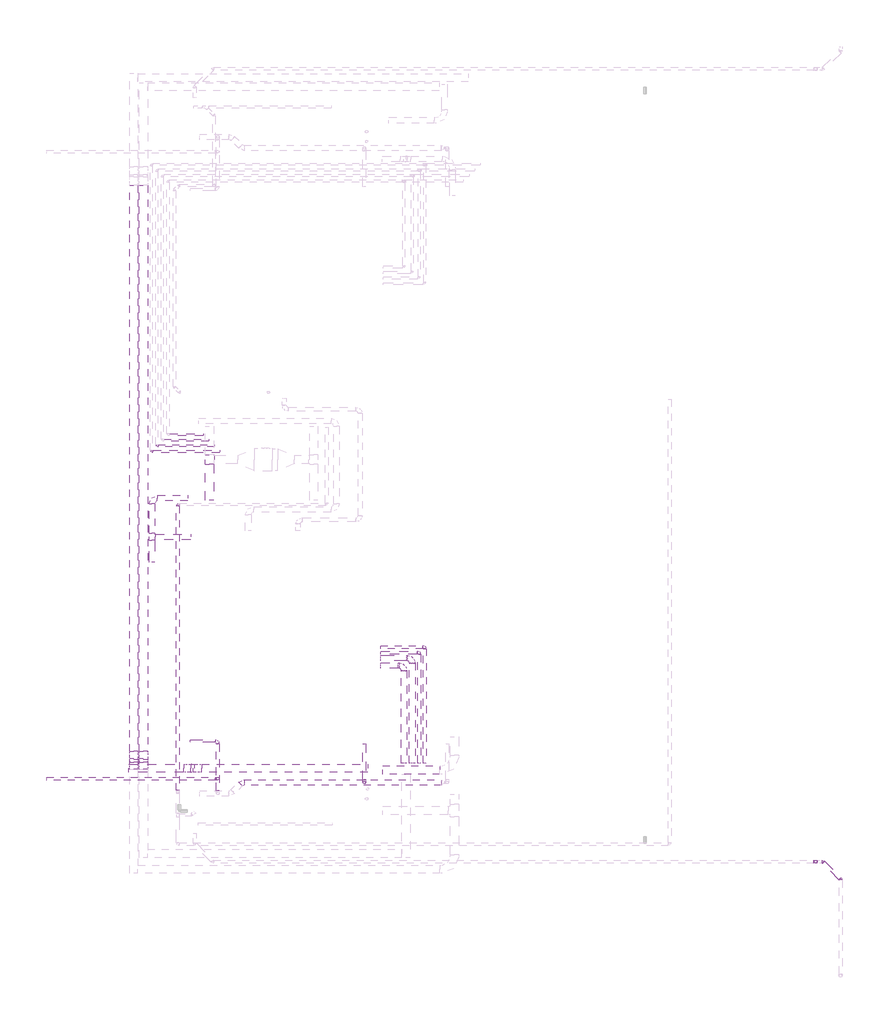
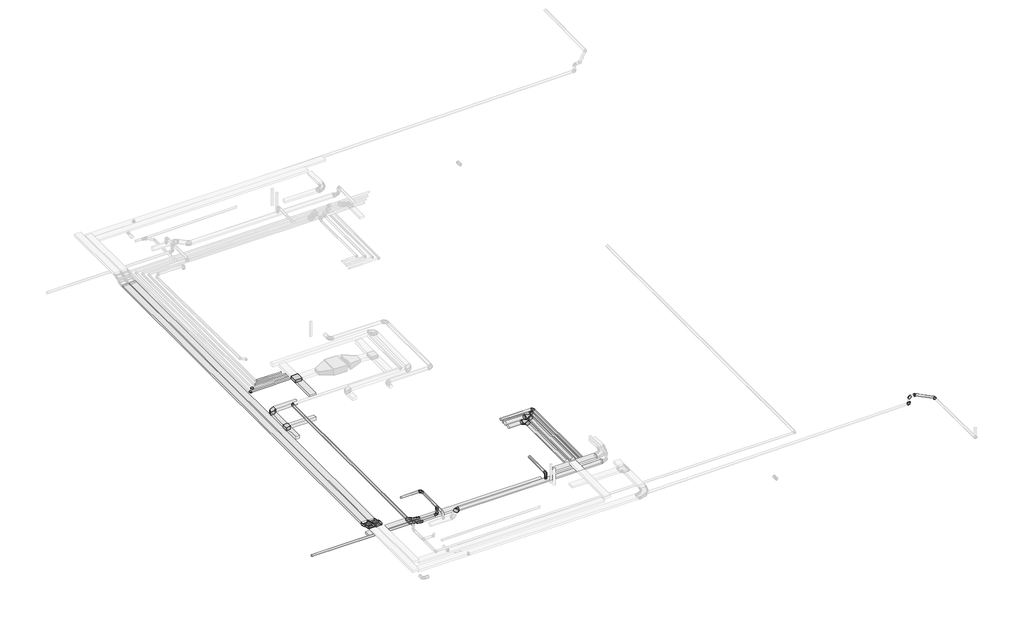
# One storey, part 2 of 5: 14 pipe segments, 12 duct segments, 11 pipe fittings, 9 duct fittings, 8 cable carrier segments, 6 cable carrier fittings.
"""IFC4 building model written with IfcOpenShell, lengths in millimetres."""

from ifc_helpers import new_model, si_unit, point, frame, frame_2d, origin, place, context, project, spatial, polyline, circle_curve, trimmed, segment, composite_curve, outline, extrude, transform, mapped, element, save
from components import m_codo_vertical_exterior_de_canal_el_547dc688, m_codo_vertical_interior_de_canal_el_a775c4ca, apt_33348139, ext_8b80eda7, ext_110b8343, ext_95de42ea, m_codo_rectangular_radio_apt_1_w_a605e9b7, m_codo_redondo_ext_1_d_96ea52f9, m_codo_redondo_ext_1_d_19f6bd6d, pipe_fitting_0b7fd5a4, pipe_fitting_aab77541, pipe_fitting_0af9fee6, pipe_fitting_39727cd3, pipe_fitting_3b77712d, pipe_fitting_2358b14d, pipe_fitting_3a68447e, pipe_fitting_87aeffad

model = new_model("IFC4")

# Units and contexts
model_context = context("Model", 3, world=origin())
ifc_project = project(units=[si_unit("LENGTHUNIT", "METRE", prefix="MILLI")], contexts=[model_context])

# Site, building, storey
site = spatial("IfcSite", under=ifc_project)
building = spatial("IfcBuilding", under=site)
storey = spatial("IfcBuildingStorey", under=building, Name="Nivell 02 P02_PP", Elevation=14910.0)

# Cable carrier fittings
placement = place(None, origin())
m_codo_vertical_exterior_de_canal_el_shape = m_codo_vertical_exterior_de_canal_el_547dc688(model_context)
element("IfcCableCarrierFitting", 1, ObjectType="M_Codo vertical exterior de canal : EL", at=placement, inside=storey, context=model_context, shape_type="MappedRepresentation", body=[
    mapped(m_codo_vertical_exterior_de_canal_el_shape, transform((5357.0671065, -15355.3999814, 18160.0), x_axis=(0.0, 1.0, 0.0), y_axis=(0.0, 0.0, -1.0), z_axis=(-1.0, 0.0, 0.0))),
])
element("IfcCableCarrierFitting", 2, ObjectType="M_Codo vertical exterior de canal : EL", at=placement, inside=storey, context=model_context, shape_type="MappedRepresentation", body=[
    mapped(m_codo_vertical_exterior_de_canal_el_shape, transform((5008.2381883, -15355.3999814, 18160.0), x_axis=(0.0, -0.9238795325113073, 0.38268343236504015), y_axis=(0.0, -0.38268343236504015, -0.9238795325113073), z_axis=(1.0, 0.0, 0.0))),
])
element("IfcCableCarrierFitting", 3, ObjectType="M_Codo vertical exterior de canal : EL", at=placement, inside=storey, context=model_context, shape_type="MappedRepresentation", body=[
    mapped(m_codo_vertical_exterior_de_canal_el_shape, transform((6956.7785309, -15459.2996833, 17810.0), x_axis=(1.0, 0.0, 0.0), y_axis=(0.0, 0.0, -1.0), z_axis=(0.0, 1.0, 0.0))),
])
m_codo_vertical_interior_de_canal_el_shape = m_codo_vertical_interior_de_canal_el_a775c4ca(model_context)
element("IfcCableCarrierFitting", 4, ObjectType="M_Codo vertical interior de canal : EL", at=placement, inside=storey, context=model_context, shape_type="MappedRepresentation", body=[
    mapped(m_codo_vertical_interior_de_canal_el_shape, transform((5357.0671065, -14993.267947, 18010.0), x_axis=(0.0, 0.9238795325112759, -0.38268343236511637), y_axis=(0.0, 0.38268343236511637, 0.9238795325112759), z_axis=(1.0, 0.0, 0.0))),
])
element("IfcCableCarrierFitting", 5, ObjectType="M_Codo vertical interior de canal : EL", at=placement, inside=storey, context=model_context, shape_type="MappedRepresentation", body=[
    mapped(m_codo_vertical_interior_de_canal_el_shape, transform((5008.2381883, -14993.267947, 18010.0), x_axis=(0.0, -1.0, 0.0), y_axis=(0.0, 0.0, 1.0), z_axis=(-1.0, 0.0, 0.0))),
])
element("IfcCableCarrierFitting", 6, ObjectType="M_Codo vertical interior de canal : EL", at=placement, inside=storey, context=model_context, shape_type="MappedRepresentation", body=[
    mapped(m_codo_vertical_interior_de_canal_el_shape, transform((7318.9105653, -15459.2996833, 17660.0), x_axis=(0.9238795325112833, 0.0, -0.38268343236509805), y_axis=(0.38268343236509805, 0.0, 0.9238795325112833), z_axis=(0.0, -1.0, 0.0))),
])

# Cable carrier segments
element("IfcCableCarrierSegment", 7, ObjectType="EL", at=placement, inside=storey, context=model_context, shape_type="SweptSolid", body=[
    extrude(outline(polyline([(6812.1592023, -15309.2996833), (6812.1592023, -15609.2996833), (4831.7785309, -15609.2996833), (4831.7785309, -15309.2996833), (6812.1592023, -15309.2996833)])), frame((0.0, 0.0, 17760.0), z_axis=(0.0, 0.0, 1.0), x_axis=(1.0, 0.0, 0.0)), (0.0, 0.0, 1.0), 100.0),
])
element("IfcCableCarrierSegment", 8, ObjectType="EL", at=placement, inside=storey, context=model_context, shape_type="SweptSolid", body=[
    extrude(outline(polyline([(16089.6624278, -15371.1304394), (16089.6624278, -15671.1304394), (14011.0671065, -15671.1304394), (14011.0671065, -15371.1304394), (16089.6624278, -15371.1304394)])), frame((0.0, 0.0, 17960.0), z_axis=(0.0, 0.0, 1.0), x_axis=(1.0, 0.0, 0.0)), (0.0, 0.0, 1.0), 100.0),
])
element("IfcCableCarrierSegment", 9, ObjectType="EL", at=placement, inside=storey, context=model_context, shape_type="SweptSolid", body=[
    extrude(outline(polyline([(0.0, -300.0), (0.0, 0.0), (102.7302323, 0.0), (102.7302323, -300.0), (0.0, -300.0)])), frame((5207.0671065, -15240.9233153, 18058.4626023), z_axis=(0.0, 0.38268343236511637, 0.9238795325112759), x_axis=(0.0, 0.9238795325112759, -0.38268343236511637)), (0.0, 0.0, 1.0), 100.0),
])
element("IfcCableCarrierSegment", 10, ObjectType="EL", at=placement, inside=storey, context=model_context, shape_type="SweptSolid", body=[
    extrude(outline(polyline([(5507.0671065, -14848.6486184), (5207.0671065, -14848.6486184), (5207.0671065, 5634.423571), (5507.0671065, 5634.423571), (5507.0671065, -14848.6486184)])), frame((0.0, 0.0, 17960.0), z_axis=(0.0, 0.0, 1.0), x_axis=(1.0, 0.0, 0.0)), (0.0, 0.0, 1.0), 100.0),
])
element("IfcCableCarrierSegment", 11, ObjectType="EL", at=placement, inside=storey, context=model_context, shape_type="SweptSolid", body=[
    extrude(outline(polyline([(4858.2381883, 5634.423571), (5158.2381883, 5634.423571), (5158.2381883, -14848.6486184), (4858.2381883, -14848.6486184), (4858.2381883, 5634.423571)])), frame((0.0, 0.0, 17960.0), z_axis=(0.0, 0.0, 1.0), x_axis=(1.0, 0.0, 0.0)), (0.0, 0.0, 1.0), 100.0),
])
element("IfcCableCarrierSegment", 12, ObjectType="EL", at=placement, inside=storey, context=model_context, shape_type="SweptSolid", body=[
    extrude(outline(polyline([(0.0, -300.0), (0.0, 0.0), (102.7302323, 0.0), (102.7302323, -300.0), (0.0, -300.0)])), frame((5158.2381883, -15146.0129563, 18019.1494444), z_axis=(0.0, 0.3826834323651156, 0.9238795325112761), x_axis=(0.0, -0.9238795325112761, 0.3826834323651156)), (0.0, 0.0, 1.0), 100.0),
])
element("IfcCableCarrierSegment", 13, ObjectType="EL", at=placement, inside=storey, context=model_context, shape_type="SweptSolid", body=[
    extrude(outline(polyline([(7463.5298938, -15609.2996833), (7463.5298938, -15309.2996833), (13469.9876148, -15309.2996833), (13469.9876148, -15609.2996833), (7463.5298938, -15609.2996833)])), frame((0.0, 0.0, 17610.0), z_axis=(0.0, 0.0, 1.0), x_axis=(1.0, 0.0, 0.0)), (0.0, 0.0, 1.0), 100.0),
])
element("IfcCableCarrierSegment", 14, ObjectType="EL", at=placement, inside=storey, context=model_context, shape_type="SweptSolid", body=[
    extrude(outline(polyline([(0.0, -300.0), (0.0, 0.0), (102.7302323, 0.0), (102.7302323, -300.0), (0.0, -300.0)])), frame((7071.255197, -15309.2996833, 17708.4626023), z_axis=(0.38268343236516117, 0.0, 0.9238795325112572), x_axis=(0.9238795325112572, 0.0, -0.38268343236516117)), (0.0, 0.0, 1.0), 100.0),
])

# Duct fittings
apt_shape = apt_33348139(model_context)
element("IfcDuctFitting", 15, ObjectType="M_Te rectangular : APT", at=placement, inside=storey, context=model_context, shape_type="MappedRepresentation", body=[
    mapped(apt_shape, transform((5665.7790997, -7084.7059364, 18060.0), x_axis=(0.0, 1.0, 0.0), y_axis=(-1.0, 0.0, 0.0), z_axis=(0.0, 0.0, 1.0))),
])
ext_shape = ext_8b80eda7(model_context)
element("IfcDuctFitting", 16, ObjectType="M_Toma de derivación redonda : EXT", at=placement, inside=storey, context=model_context, shape_type="MappedRepresentation", body=[
    mapped(ext_shape, transform((13350.5896993, -15972.9719502, 18090.0), x_axis=(0.0, 0.0, 1.0), y_axis=(-1.0, 0.0, 0.0), z_axis=(0.0, -1.0, 0.0))),
])
ext_2_shape = ext_110b8343(model_context)
element("IfcDuctFitting", 17, ObjectType="M_Toma de derivación redonda : EXT", at=placement, inside=storey, context=model_context, shape_type="MappedRepresentation", body=[
    mapped(ext_2_shape, transform((8050.5896993, -15837.2857017, 18310.0), x_axis=(0.0, 0.0, -1.0), y_axis=(0.0, -1.0, 0.0), z_axis=(-1.0, 0.0, 0.0))),
])
ext_3_shape = ext_95de42ea(model_context)
element("IfcDuctFitting", 18, ObjectType="M_Te rectangular : EXT", at=placement, inside=storey, context=model_context, shape_type="MappedRepresentation", body=[
    mapped(ext_3_shape, transform((7746.1618177, -4289.990201, 18177.1198525), x_axis=(0.0, 1.0, 0.0), y_axis=(-1.0, 0.0, 0.0), z_axis=(0.0, 0.0, 1.0))),
])
m_codo_rectangular_radio_apt_1_w_shape = m_codo_rectangular_radio_apt_1_w_a605e9b7(model_context)
element("IfcDuctFitting", 19, ObjectType="M_Codo rectangular - Radio : APT_1 W", at=placement, inside=storey, context=model_context, shape_type="MappedRepresentation", body=[
    mapped(m_codo_rectangular_radio_apt_1_w_shape, transform((5665.7790997, -5684.7059364, 18060.0), x_axis=(-1.0, 0.0, 0.0), y_axis=(0.0, -1.0, 0.0), z_axis=(0.0, 0.0, 1.0))),
])
m_codo_redondo_ext_1_d_shape = m_codo_redondo_ext_1_d_96ea52f9(model_context)
element("IfcDuctFitting", 20, ObjectType="M_Codo redondo : EXT_1 D", at=placement, inside=storey, context=model_context, shape_type="MappedRepresentation", body=[
    mapped(m_codo_redondo_ext_1_d_shape, transform((8050.5896993, -14471.4839002, 18360.0), x_axis=(1.0, 0.0, 0.0), y_axis=(0.0, 1.0, 0.0), z_axis=(0.0, 0.0, 1.0))),
])
element("IfcDuctFitting", 21, ObjectType="M_Codo redondo : EXT_1 D", at=placement, inside=storey, context=model_context, shape_type="MappedRepresentation", body=[
    mapped(m_codo_redondo_ext_1_d_shape, transform((13350.5896993, -15972.9719502, 18360.0), x_axis=(0.0, -1.0, 0.0), y_axis=(0.0, 0.0, 1.0), z_axis=(-1.0, 0.0, 0.0))),
])
element("IfcDuctFitting", 22, ObjectType="M_Codo redondo : EXT_1 D", at=placement, inside=storey, context=model_context, shape_type="MappedRepresentation", body=[
    mapped(m_codo_redondo_ext_1_d_shape, transform((8050.5896993, -15837.2857017, 17960.0), x_axis=(0.0, 0.0, -1.0), y_axis=(1.0, 0.0, 0.0), z_axis=(0.0, -1.0, 0.0))),
])
m_codo_redondo_ext_1_d_2_shape = m_codo_redondo_ext_1_d_19f6bd6d(model_context)
element("IfcDuctFitting", 23, ObjectType="M_Codo redondo : EXT_1 D", at=placement, inside=storey, context=model_context, shape_type="MappedRepresentation", body=[
    mapped(m_codo_redondo_ext_1_d_2_shape, transform((8930.5896993, -15972.9719502, 17990.0), x_axis=(0.7071067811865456, 0.7071067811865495, 0.0), y_axis=(-0.7071067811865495, 0.7071067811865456, 0.0), z_axis=(0.0, 0.0, 1.0))),
])

# Duct segments
element("IfcDuctSegment", 24, ObjectType="APT_Fibra de vidre rígida", at=placement, inside=storey, context=model_context, shape_type="SweptSolid", body=[
    extrude(outline(polyline([(7065.7790997, -6984.7059364), (7065.7790997, -7184.7059364), (5790.7790997, -7184.7059364), (5790.7790997, -6984.7059364), (7065.7790997, -6984.7059364)])), frame((0.0, 0.0, 17985.0), z_axis=(0.0, 0.0, 1.0), x_axis=(1.0, 0.0, 0.0)), (0.0, 0.0, 1.0), 150.0),
])
element("IfcDuctSegment", 25, ObjectType="APT_Fibra de vidre rígida", at=placement, inside=storey, context=model_context, shape_type="SweptSolid", body=[
    extrude(outline(polyline([(5765.7790997, -6959.7059364), (5565.7790997, -6959.7059364), (5565.7790997, -5884.7059364), (5765.7790997, -5884.7059364), (5765.7790997, -6959.7059364)])), frame((0.0, 0.0, 17985.0), z_axis=(0.0, 0.0, 1.0), x_axis=(1.0, 0.0, 0.0)), (0.0, 0.0, 1.0), 150.0),
])
element("IfcDuctSegment", 26, ObjectType="APT_Fibra de vidre rígida", at=placement, inside=storey, context=model_context, shape_type="SweptSolid", body=[
    extrude(outline(polyline([(5865.7790997, -5784.7059364), (5865.7790997, -5584.7059364), (6965.7790997, -5584.7059364), (6965.7790997, -5784.7059364), (5865.7790997, -5784.7059364)])), frame((0.0, 0.0, 17985.0), z_axis=(0.0, 0.0, 1.0), x_axis=(1.0, 0.0, 0.0)), (0.0, 0.0, 1.0), 150.0),
])
element("IfcDuctSegment", 27, ObjectType="APT_Fibra de vidre rígida", at=placement, inside=storey, context=model_context, shape_type="SweptSolid", body=[
    extrude(outline(polyline([(5565.7790997, -7209.7059364), (5765.7790997, -7209.7059364), (5765.7790997, -8009.7059364), (5565.7790997, -8009.7059364), (5565.7790997, -7209.7059364)])), frame((0.0, 0.0, 17985.0), z_axis=(0.0, 0.0, 1.0), x_axis=(1.0, 0.0, 0.0)), (0.0, 0.0, 1.0), 150.0),
])
element("IfcDuctSegment", 28, ObjectType="EXT_Acer Galvanitzat - Rígid", at=placement, inside=storey, context=model_context, shape_type="SweptSolid", body=[
    extrude(outline(composite_curve([segment(trimmed(circle_curve(frame_2d((-15972.9719502, 17990.0)), 100.0), [point((-15872.9719502, 17990.0))], [point((-15972.9719502, 17890.0))], False, "CARTESIAN"), True, "CONTINUOUS"), segment(trimmed(circle_curve(frame_2d((-15972.9719502, 17990.0)), 100.0), [point((-15972.9719502, 17890.0))], [point((-16072.9719502, 17990.0))], False, "CARTESIAN"), True, "CONTINUOUS"), segment(trimmed(circle_curve(frame_2d((-15972.9719502, 17990.0)), 100.0), [point((-16072.9719502, 17990.0))], [point((-15972.9719502, 18090.0))], False, "CARTESIAN"), True, "CONTINUOUS"), segment(trimmed(circle_curve(frame_2d((-15972.9719502, 17990.0)), 100.0), [point((-15972.9719502, 18090.0))], [point((-15872.9719502, 17990.0))], False, "CARTESIAN"), True, "CONTINUOUS")], self_intersect=False)), frame((9013.4324117, 0.0, 0.0), z_axis=(1.0, 0.0, 0.0), x_axis=(0.0, 1.0, 0.0)), (0.0, 0.0, 1.0), 7116.4466094),
])
element("IfcDuctSegment", 29, ObjectType="EXT_Acer Galvanitzat - Rígid", at=placement, inside=storey, context=model_context, shape_type="SweptSolid", body=[
    extrude(outline(composite_curve([segment(trimmed(circle_curve(frame_2d((-14471.4839002, 18360.0)), 50.0), [point((-14521.4839002, 18360.0))], [point((-14471.4839002, 18410.0))], False, "CARTESIAN"), True, "CONTINUOUS"), segment(trimmed(circle_curve(frame_2d((-14471.4839002, 18360.0)), 50.0), [point((-14471.4839002, 18410.0))], [point((-14421.4839002, 18360.0))], False, "CARTESIAN"), True, "CONTINUOUS"), segment(trimmed(circle_curve(frame_2d((-14471.4839002, 18360.0)), 50.0), [point((-14421.4839002, 18360.0))], [point((-14471.4839002, 18310.0))], False, "CARTESIAN"), True, "CONTINUOUS"), segment(trimmed(circle_curve(frame_2d((-14471.4839002, 18360.0)), 50.0), [point((-14471.4839002, 18310.0))], [point((-14521.4839002, 18360.0))], False, "CARTESIAN"), True, "CONTINUOUS")], self_intersect=False)), frame((7050.5896993, 0.0, 0.0), z_axis=(1.0, 0.0, 0.0), x_axis=(0.0, 1.0, 0.0)), (0.0, 0.0, 1.0), 900.0),
])
element("IfcDuctSegment", 30, ObjectType="EXT_Acer Galvanitzat - Rígid", at=placement, inside=storey, context=model_context, shape_type="SweptSolid", body=[
    extrude(outline(composite_curve([segment(trimmed(circle_curve(frame_2d((18360.0, 8050.5896993)), 50.0), [point((18360.0, 8100.5896993))], [point((18410.0, 8050.5896993))], False, "CARTESIAN"), True, "CONTINUOUS"), segment(trimmed(circle_curve(frame_2d((18360.0, 8050.5896993)), 50.0), [point((18410.0, 8050.5896993))], [point((18360.0, 8000.5896993))], False, "CARTESIAN"), True, "CONTINUOUS"), segment(trimmed(circle_curve(frame_2d((18360.0, 8050.5896993)), 50.0), [point((18360.0, 8000.5896993))], [point((18310.0, 8050.5896993))], False, "CARTESIAN"), True, "CONTINUOUS"), segment(trimmed(circle_curve(frame_2d((18360.0, 8050.5896993)), 50.0), [point((18310.0, 8050.5896993))], [point((18360.0, 8100.5896993))], False, "CARTESIAN"), True, "CONTINUOUS")], self_intersect=False)), frame((0.0, -16272.9719502, 0.0), z_axis=(0.0, 1.0, 0.0), x_axis=(0.0, 0.0, 1.0)), (0.0, 0.0, 1.0), 1701.48805),
])
element("IfcDuctSegment", 31, ObjectType="EXT_Acer Galvanitzat - Rígid", at=placement, inside=storey, context=model_context, shape_type="SweptSolid", body=[
    extrude(outline(composite_curve([segment(trimmed(circle_curve(frame_2d((18360.0, 13350.5896993)), 50.0), [point((18360.0, 13400.5896993))], [point((18410.0, 13350.5896993))], False, "CARTESIAN"), True, "CONTINUOUS"), segment(trimmed(circle_curve(frame_2d((18360.0, 13350.5896993)), 50.0), [point((18410.0, 13350.5896993))], [point((18360.0, 13300.5896993))], False, "CARTESIAN"), True, "CONTINUOUS"), segment(trimmed(circle_curve(frame_2d((18360.0, 13350.5896993)), 50.0), [point((18360.0, 13300.5896993))], [point((18310.0, 13350.5896993))], False, "CARTESIAN"), True, "CONTINUOUS"), segment(trimmed(circle_curve(frame_2d((18360.0, 13350.5896993)), 50.0), [point((18310.0, 13350.5896993))], [point((18360.0, 13400.5896993))], False, "CARTESIAN"), True, "CONTINUOUS")], self_intersect=False)), frame((0.0, -15872.9719502, 0.0), z_axis=(0.0, 1.0, 0.0), x_axis=(0.0, 0.0, 1.0)), (0.0, 0.0, 1.0), 1301.48805),
])
element("IfcDuctSegment", 32, ObjectType="EXT_Acer Galvanitzat - Rígid", at=placement, inside=storey, context=model_context, shape_type="SweptSolid", body=[
    extrude(outline(composite_curve([segment(trimmed(circle_curve(frame_2d((13350.5896993, -15972.9719502)), 50.0), [point((13300.5896993, -15972.9719502))], [point((13350.5896993, -15922.9719502))], False, "CARTESIAN"), True, "CONTINUOUS"), segment(trimmed(circle_curve(frame_2d((13350.5896993, -15972.9719502)), 50.0), [point((13350.5896993, -15922.9719502))], [point((13400.5896993, -15972.9719502))], False, "CARTESIAN"), True, "CONTINUOUS"), segment(trimmed(circle_curve(frame_2d((13350.5896993, -15972.9719502)), 50.0), [point((13400.5896993, -15972.9719502))], [point((13350.5896993, -16022.9719502))], False, "CARTESIAN"), True, "CONTINUOUS"), segment(trimmed(circle_curve(frame_2d((13350.5896993, -15972.9719502)), 50.0), [point((13350.5896993, -16022.9719502))], [point((13300.5896993, -15972.9719502))], False, "CARTESIAN"), True, "CONTINUOUS")], self_intersect=False)), frame((0.0, 0.0, 18191.6), z_axis=(0.0, 0.0, 1.0), x_axis=(1.0, 0.0, 0.0)), (0.0, 0.0, 1.0), 68.4),
])
element("IfcDuctSegment", 33, ObjectType="EXT_Acer Galvanitzat - Rígid", at=placement, inside=storey, context=model_context, shape_type="SweptSolid", body=[
    extrude(outline(composite_curve([segment(trimmed(circle_curve(frame_2d((8050.5896993, -15837.2857017)), 50.0), [point((8050.5896993, -15787.2857017))], [point((8100.5896993, -15837.2857017))], False, "CARTESIAN"), True, "CONTINUOUS"), segment(trimmed(circle_curve(frame_2d((8050.5896993, -15837.2857017)), 50.0), [point((8100.5896993, -15837.2857017))], [point((8050.5896993, -15887.2857017))], False, "CARTESIAN"), True, "CONTINUOUS"), segment(trimmed(circle_curve(frame_2d((8050.5896993, -15837.2857017)), 50.0), [point((8050.5896993, -15887.2857017))], [point((8000.5896993, -15837.2857017))], False, "CARTESIAN"), True, "CONTINUOUS"), segment(trimmed(circle_curve(frame_2d((8050.5896993, -15837.2857017)), 50.0), [point((8000.5896993, -15837.2857017))], [point((8050.5896993, -15787.2857017))], False, "CARTESIAN"), True, "CONTINUOUS")], self_intersect=False)), frame((0.0, 0.0, 18060.0), z_axis=(0.0, 0.0, 1.0), x_axis=(1.0, 0.0, 0.0)), (0.0, 0.0, 1.0), 148.4),
])
element("IfcDuctSegment", 34, ObjectType="EXT_Acer Galvanitzat - Rígid", at=placement, inside=storey, context=model_context, shape_type="SweptSolid", body=[
    extrude(outline(composite_curve([segment(trimmed(circle_curve(frame_2d((-15837.2857017, 17960.0)), 50.0), [point((-15787.2857017, 17960.0))], [point((-15837.2857017, 17910.0))], False, "CARTESIAN"), True, "CONTINUOUS"), segment(trimmed(circle_curve(frame_2d((-15837.2857017, 17960.0)), 50.0), [point((-15837.2857017, 17910.0))], [point((-15887.2857017, 17960.0))], False, "CARTESIAN"), True, "CONTINUOUS"), segment(trimmed(circle_curve(frame_2d((-15837.2857017, 17960.0)), 50.0), [point((-15887.2857017, 17960.0))], [point((-15837.2857017, 18010.0))], False, "CARTESIAN"), True, "CONTINUOUS"), segment(trimmed(circle_curve(frame_2d((-15837.2857017, 17960.0)), 50.0), [point((-15837.2857017, 18010.0))], [point((-15787.2857017, 17960.0))], False, "CARTESIAN"), True, "CONTINUOUS")], self_intersect=False)), frame((1850.5896993, 0.0, 0.0), z_axis=(1.0, 0.0, 0.0), x_axis=(0.0, 1.0, 0.0)), (0.0, 0.0, 1.0), 6100.0),
])
element("IfcDuctSegment", 35, ObjectType="EXT_Planxa galvanitzada", at=placement, inside=storey, context=model_context, shape_type="SweptSolid", body=[
    extrude(outline(polyline([(7596.1618177, -4464.9902015), (7896.1618177, -4464.9902004), (7896.1618227, -5765.056672), (7596.1618227, -5765.0566731), (7596.1618177, -4464.9902015)])), frame((0.0, 0.0, 18102.1198525), z_axis=(0.0, 0.0, 1.0), x_axis=(1.0, 0.0, 0.0)), (0.0, 0.0, 1.0), 150.0),
])

# Pipe fittings
pipe_fitting_shape = pipe_fitting_0b7fd5a4(model_context)
element("IfcPipeFitting", 36, ObjectType="M_Codo - Genérico : Estándar", at=placement, inside=storey, context=model_context, shape_type="MappedRepresentation", body=[
    mapped(pipe_fitting_shape, transform((30589.4059114, -19474.4581925, 18374.9769213), x_axis=(0.0, 0.9999500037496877, -0.009999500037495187), y_axis=(-0.9999914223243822, -4.141685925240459e-05, -0.004141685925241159), z_axis=(-0.004141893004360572, 0.009999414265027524, 0.9999414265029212))),
])
pipe_fitting_2_shape = pipe_fitting_aab77541(model_context)
element("IfcPipeFitting", 37, ObjectType="M_Codo - Genérico : Estándar", at=placement, inside=storey, context=model_context, shape_type="MappedRepresentation", body=[
    mapped(pipe_fitting_2_shape, transform((29687.5503889, -18840.3956727, 18012.2425601), x_axis=(0.9999500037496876, 0.0, 0.00999950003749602), y_axis=(-0.00999950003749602, 0.0, 0.9999500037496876), z_axis=(0.0, -1.0, 0.0))),
])
pipe_fitting_3_shape = pipe_fitting_0af9fee6(model_context)
element("IfcPipeFitting", 38, ObjectType="M_Codo - Genérico : Estándar", at=placement, inside=storey, context=model_context, shape_type="MappedRepresentation", body=[
    mapped(pipe_fitting_3_shape, transform((29955.352721, -18840.4049607, 18366.0030113), x_axis=(-0.7070713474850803, 0.7070713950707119, -0.010007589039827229), y_axis=(-0.7070715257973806, -0.7071299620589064, -0.0041320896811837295), z_axis=(-0.009998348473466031, 0.004154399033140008, 0.9999413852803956))),
])
pipe_fitting_4_shape = pipe_fitting_39727cd3(model_context)
element("IfcPipeFitting", 39, ObjectType="M_Codo - Genérico : Estándar", at=placement, inside=storey, context=model_context, shape_type="MappedRepresentation", body=[
    mapped(pipe_fitting_4_shape, transform((29687.5503889, -18840.4049607, 18363.3252733), x_axis=(-0.9999500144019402, 0.0, -0.009998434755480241), y_axis=(0.009998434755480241, 0.0, -0.9999500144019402), z_axis=(0.0, -1.0, 0.0))),
])
pipe_fitting_5_shape = pipe_fitting_3b77712d(model_context)
element("IfcPipeFitting", 40, ObjectType="M_Codo - Genérico : Estándar", at=placement, inside=storey, context=model_context, shape_type="MappedRepresentation", body=[
    mapped(pipe_fitting_5_shape, transform((15537.4352568, -11073.2087902, 17965.0), x_axis=(1.0, 0.0, 0.0), y_axis=(0.0, 1.0, 0.0), z_axis=(0.0, 0.0, 1.0))),
])
element("IfcPipeFitting", 41, ObjectType="M_Codo - Genérico : Estándar", at=placement, inside=storey, context=model_context, shape_type="MappedRepresentation", body=[
    mapped(pipe_fitting_5_shape, transform((15337.4352568, -11273.2087902, 17965.0), x_axis=(1.0, 0.0, 0.0), y_axis=(0.0, 1.0, 0.0), z_axis=(0.0, 0.0, 1.0))),
])
pipe_fitting_6_shape = pipe_fitting_2358b14d(model_context)
element("IfcPipeFitting", 42, ObjectType="Codo 90º Soldadura a Tope SDR 11 BluePipe : Estándar", at=placement, inside=storey, context=model_context, shape_type="MappedRepresentation", body=[
    mapped(pipe_fitting_6_shape, transform((14787.4352568, -11743.2087902, 18010.0), x_axis=(1.0, 0.0, 0.0), y_axis=(0.0, 1.0, 0.0), z_axis=(0.0, 0.0, 1.0))),
])
element("IfcPipeFitting", 43, ObjectType="Codo 90º Soldadura a Tope SDR 11 BluePipe : Estándar", at=placement, inside=storey, context=model_context, shape_type="MappedRepresentation", body=[
    mapped(pipe_fitting_6_shape, transform((15087.4352568, -11473.2087902, 18010.0), x_axis=(1.0, 0.0, 0.0), y_axis=(0.0, 1.0, 0.0), z_axis=(0.0, 0.0, 1.0))),
])
pipe_fitting_7_shape = pipe_fitting_3a68447e(model_context)
element("IfcPipeFitting", 44, ObjectType="M_Codo - Genérico : Estándar", at=placement, inside=storey, context=model_context, shape_type="MappedRepresentation", body=[
    mapped(pipe_fitting_7_shape, transform((5845.7381883, -3794.9253722, 18022.5), x_axis=(0.0, -1.0, 0.0), y_axis=(1.0, 0.0, 0.0), z_axis=(0.0, 0.0, 1.0))),
])
element("IfcPipeFitting", 45, ObjectType="M_Codo - Genérico : Estándar", at=placement, inside=storey, context=model_context, shape_type="MappedRepresentation", body=[
    mapped(pipe_fitting_7_shape, transform((5645.7381883, -3994.9253722, 18022.5), x_axis=(0.0, -1.0, 0.0), y_axis=(1.0, 0.0, 0.0), z_axis=(0.0, 0.0, 1.0))),
])
pipe_fitting_8_shape = pipe_fitting_87aeffad(model_context)
element("IfcPipeFitting", 46, ObjectType="M_Codo - Genérico : Estándar", at=placement, inside=storey, context=model_context, shape_type="MappedRepresentation", body=[
    mapped(pipe_fitting_8_shape, transform((6603.8941113, -5912.8731458, 18210.8), x_axis=(-1.0, 0.0, 0.0), y_axis=(0.0, -1.0, 0.0), z_axis=(0.0, 0.0, 1.0))),
])

# Pipe segments
element("IfcPipeSegment", 47, ObjectType="PVC_Baixant", at=placement, inside=storey, context=model_context, shape_type="SweptSolid", body=[
    extrude(outline(composite_curve([segment(trimmed(circle_curve(frame_2d((0.0, -55.0)), 55.0), [point((54.997246, -54.4496102))], [point((0.5503897, -109.9972461))], False, "CARTESIAN"), True, "CONTINUOUS"), segment(trimmed(circle_curve(frame_2d((0.0, -55.0)), 55.0), [point((0.5503897, -109.9972461))], [point((-54.997246, -55.5503898))], False, "CARTESIAN"), True, "CONTINUOUS"), segment(trimmed(circle_curve(frame_2d((0.0, -55.0)), 55.0), [point((-54.997246, -55.5503898))], [point((-0.5503899, -0.0027539))], False, "CARTESIAN"), True, "CONTINUOUS"), segment(trimmed(circle_curve(frame_2d((0.0, -55.0)), 55.0), [point((-0.5503899, -0.0027539))], [point((54.997246, -54.4496102))], False, "CARTESIAN"), True, "CONTINUOUS")], self_intersect=False)), frame((29973.7846855, -18858.0585576, 18421.2583814), z_axis=(0.7070713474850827, -0.7070713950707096, 0.010007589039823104), x_axis=(0.7071422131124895, 0.7070005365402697, -0.010006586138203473)), (0.0, 0.0, 1.0), 844.5954746),
])
element("IfcPipeSegment", 48, ObjectType="PPR_CLI_Aquatherm Blue Pipe", at=placement, inside=storey, context=model_context, shape_type="SweptSolid", body=[
    extrude(outline(composite_curve([segment(trimmed(circle_curve(frame_2d((-3394.9253722, 18022.5)), 37.5), [point((-3432.4253722, 18022.5))], [point((-3394.9253722, 18060.0))], False, "CARTESIAN"), True, "CONTINUOUS"), segment(trimmed(circle_curve(frame_2d((-3394.9253722, 18022.5)), 37.5), [point((-3394.9253722, 18060.0))], [point((-3357.4253722, 18022.5))], False, "CARTESIAN"), True, "CONTINUOUS"), segment(trimmed(circle_curve(frame_2d((-3394.9253722, 18022.5)), 37.5), [point((-3357.4253722, 18022.5))], [point((-3394.9253722, 17985.0))], False, "CARTESIAN"), True, "CONTINUOUS"), segment(trimmed(circle_curve(frame_2d((-3394.9253722, 18022.5)), 37.5), [point((-3394.9253722, 17985.0))], [point((-3432.4253722, 18022.5))], False, "CARTESIAN"), True, "CONTINUOUS")], self_intersect=False)), frame((6291.1756883, 0.0, 0.0), z_axis=(1.0, 0.0, 0.0), x_axis=(0.0, 1.0, 0.0)), (0.0, 0.0, 1.0), 1234.603417),
])
element("IfcPipeSegment", 49, ObjectType="PPR_CLI_Aquatherm Blue Pipe", at=placement, inside=storey, context=model_context, shape_type="SweptSolid", body=[
    extrude(outline(composite_curve([segment(trimmed(circle_curve(frame_2d((-3594.9253722, 18022.5)), 37.5), [point((-3632.4253722, 18022.5))], [point((-3594.9253722, 18060.0))], False, "CARTESIAN"), True, "CONTINUOUS"), segment(trimmed(circle_curve(frame_2d((-3594.9253722, 18022.5)), 37.5), [point((-3594.9253722, 18060.0))], [point((-3557.4253722, 18022.5))], False, "CARTESIAN"), True, "CONTINUOUS"), segment(trimmed(circle_curve(frame_2d((-3594.9253722, 18022.5)), 37.5), [point((-3557.4253722, 18022.5))], [point((-3594.9253722, 17985.0))], False, "CARTESIAN"), True, "CONTINUOUS"), segment(trimmed(circle_curve(frame_2d((-3594.9253722, 18022.5)), 37.5), [point((-3594.9253722, 17985.0))], [point((-3632.4253722, 18022.5))], False, "CARTESIAN"), True, "CONTINUOUS")], self_intersect=False)), frame((6091.1756883, 0.0, 0.0), z_axis=(1.0, 0.0, 0.0), x_axis=(0.0, 1.0, 0.0)), (0.0, 0.0, 1.0), 1634.603417),
])
element("IfcPipeSegment", 50, ObjectType="PPR_CLI_Aquatherm Blue Pipe", at=placement, inside=storey, context=model_context, shape_type="SweptSolid", body=[
    extrude(outline(composite_curve([segment(trimmed(circle_curve(frame_2d((-3794.9253722, 18022.5)), 37.5), [point((-3832.4253722, 18022.5))], [point((-3794.9253722, 18060.0))], False, "CARTESIAN"), True, "CONTINUOUS"), segment(trimmed(circle_curve(frame_2d((-3794.9253722, 18022.5)), 37.5), [point((-3794.9253722, 18060.0))], [point((-3757.4253722, 18022.5))], False, "CARTESIAN"), True, "CONTINUOUS"), segment(trimmed(circle_curve(frame_2d((-3794.9253722, 18022.5)), 37.5), [point((-3757.4253722, 18022.5))], [point((-3794.9253722, 17985.0))], False, "CARTESIAN"), True, "CONTINUOUS"), segment(trimmed(circle_curve(frame_2d((-3794.9253722, 18022.5)), 37.5), [point((-3794.9253722, 17985.0))], [point((-3832.4253722, 18022.5))], False, "CARTESIAN"), True, "CONTINUOUS")], self_intersect=False)), frame((5891.1756883, 0.0, 0.0), z_axis=(1.0, 0.0, 0.0), x_axis=(0.0, 1.0, 0.0)), (0.0, 0.0, 1.0), 2034.603417),
])
element("IfcPipeSegment", 51, ObjectType="PPR_CLI_Aquatherm Blue Pipe", at=placement, inside=storey, context=model_context, shape_type="SweptSolid", body=[
    extrude(outline(composite_curve([segment(trimmed(circle_curve(frame_2d((-3994.9253722, 18022.5)), 37.5), [point((-4032.4253722, 18022.5))], [point((-3994.9253722, 18060.0))], False, "CARTESIAN"), True, "CONTINUOUS"), segment(trimmed(circle_curve(frame_2d((-3994.9253722, 18022.5)), 37.5), [point((-3994.9253722, 18060.0))], [point((-3957.4253722, 18022.5))], False, "CARTESIAN"), True, "CONTINUOUS"), segment(trimmed(circle_curve(frame_2d((-3994.9253722, 18022.5)), 37.5), [point((-3957.4253722, 18022.5))], [point((-3994.9253722, 17985.0))], False, "CARTESIAN"), True, "CONTINUOUS"), segment(trimmed(circle_curve(frame_2d((-3994.9253722, 18022.5)), 37.5), [point((-3994.9253722, 17985.0))], [point((-4032.4253722, 18022.5))], False, "CARTESIAN"), True, "CONTINUOUS")], self_intersect=False)), frame((5691.1756883, 0.0, 0.0), z_axis=(1.0, 0.0, 0.0), x_axis=(0.0, 1.0, 0.0)), (0.0, 0.0, 1.0), 2434.603417),
])
element("IfcPipeSegment", 52, ObjectType="PPR_CLI_Aquatherm Blue Pipe", at=placement, inside=storey, context=model_context, shape_type="SweptSolid", body=[
    extrude(outline(composite_curve([segment(trimmed(circle_curve(frame_2d((-11743.2087902, 18010.0)), 100.0), [point((-11643.2087902, 18010.0))], [point((-11743.2087902, 17910.0))], False, "CARTESIAN"), True, "CONTINUOUS"), segment(trimmed(circle_curve(frame_2d((-11743.2087902, 18010.0)), 100.0), [point((-11743.2087902, 17910.0))], [point((-11843.2087902, 18010.0))], False, "CARTESIAN"), True, "CONTINUOUS"), segment(trimmed(circle_curve(frame_2d((-11743.2087902, 18010.0)), 100.0), [point((-11843.2087902, 18010.0))], [point((-11743.2087902, 18110.0))], False, "CARTESIAN"), True, "CONTINUOUS"), segment(trimmed(circle_curve(frame_2d((-11743.2087902, 18010.0)), 100.0), [point((-11743.2087902, 18110.0))], [point((-11643.2087902, 18010.0))], False, "CARTESIAN"), True, "CONTINUOUS")], self_intersect=False)), frame((13947.4352568, 0.0, 0.0), z_axis=(1.0, 0.0, 0.0), x_axis=(0.0, 1.0, 0.0)), (0.0, 0.0, 1.0), 665.0),
])
element("IfcPipeSegment", 53, ObjectType="PPR_CLI_Aquatherm Blue Pipe", at=placement, inside=storey, context=model_context, shape_type="SweptSolid", body=[
    extrude(outline(composite_curve([segment(trimmed(circle_curve(frame_2d((18010.0, 14787.4352568)), 100.0), [point((18010.0, 14687.4352568))], [point((17910.0, 14787.4352568))], False, "CARTESIAN"), True, "CONTINUOUS"), segment(trimmed(circle_curve(frame_2d((18010.0, 14787.4352568)), 100.0), [point((17910.0, 14787.4352568))], [point((18010.0, 14887.4352568))], False, "CARTESIAN"), True, "CONTINUOUS"), segment(trimmed(circle_curve(frame_2d((18010.0, 14787.4352568)), 100.0), [point((18010.0, 14887.4352568))], [point((18110.0, 14787.4352568))], False, "CARTESIAN"), True, "CONTINUOUS"), segment(trimmed(circle_curve(frame_2d((18010.0, 14787.4352568)), 100.0), [point((18110.0, 14787.4352568))], [point((18010.0, 14687.4352568))], False, "CARTESIAN"), True, "CONTINUOUS")], self_intersect=False)), frame((0.0, -15273.2087902, 0.0), z_axis=(0.0, 1.0, 0.0), x_axis=(0.0, 0.0, 1.0)), (0.0, 0.0, 1.0), 3355.0),
])
element("IfcPipeSegment", 54, ObjectType="PPR_CLI_Aquatherm Blue Pipe", at=placement, inside=storey, context=model_context, shape_type="SweptSolid", body=[
    extrude(outline(composite_curve([segment(trimmed(circle_curve(frame_2d((18010.0, 15087.4352568)), 100.0), [point((18010.0, 14987.4352568))], [point((17910.0, 15087.4352568))], False, "CARTESIAN"), True, "CONTINUOUS"), segment(trimmed(circle_curve(frame_2d((18010.0, 15087.4352568)), 100.0), [point((17910.0, 15087.4352568))], [point((18010.0, 15187.4352568))], False, "CARTESIAN"), True, "CONTINUOUS"), segment(trimmed(circle_curve(frame_2d((18010.0, 15087.4352568)), 100.0), [point((18010.0, 15187.4352568))], [point((18110.0, 15087.4352568))], False, "CARTESIAN"), True, "CONTINUOUS"), segment(trimmed(circle_curve(frame_2d((18010.0, 15087.4352568)), 100.0), [point((18110.0, 15087.4352568))], [point((18010.0, 14987.4352568))], False, "CARTESIAN"), True, "CONTINUOUS")], self_intersect=False)), frame((0.0, -15273.2087902, 0.0), z_axis=(0.0, 1.0, 0.0), x_axis=(0.0, 0.0, 1.0)), (0.0, 0.0, 1.0), 3625.0),
])
element("IfcPipeSegment", 55, ObjectType="PPR_CLI_Aquatherm Blue Pipe", at=placement, inside=storey, context=model_context, shape_type="SweptSolid", body=[
    extrude(outline(composite_curve([segment(trimmed(circle_curve(frame_2d((17965.0, 15337.4352568)), 55.0), [point((17965.0, 15282.4352568))], [point((17910.0, 15337.4352568))], False, "CARTESIAN"), True, "CONTINUOUS"), segment(trimmed(circle_curve(frame_2d((17965.0, 15337.4352568)), 55.0), [point((17910.0, 15337.4352568))], [point((17965.0, 15392.4352568))], False, "CARTESIAN"), True, "CONTINUOUS"), segment(trimmed(circle_curve(frame_2d((17965.0, 15337.4352568)), 55.0), [point((17965.0, 15392.4352568))], [point((18020.0, 15337.4352568))], False, "CARTESIAN"), True, "CONTINUOUS"), segment(trimmed(circle_curve(frame_2d((17965.0, 15337.4352568)), 55.0), [point((18020.0, 15337.4352568))], [point((17965.0, 15282.4352568))], False, "CARTESIAN"), True, "CONTINUOUS")], self_intersect=False)), frame((0.0, -15273.2087902, 0.0), z_axis=(0.0, 1.0, 0.0), x_axis=(0.0, 0.0, 1.0)), (0.0, 0.0, 1.0), 3937.0625),
])
element("IfcPipeSegment", 56, ObjectType="PPR_CLI_Aquatherm Blue Pipe", at=placement, inside=storey, context=model_context, shape_type="SweptSolid", body=[
    extrude(outline(composite_curve([segment(trimmed(circle_curve(frame_2d((17965.0, 15537.4352568)), 55.0), [point((17965.0, 15482.4352568))], [point((17910.0, 15537.4352568))], False, "CARTESIAN"), True, "CONTINUOUS"), segment(trimmed(circle_curve(frame_2d((17965.0, 15537.4352568)), 55.0), [point((17910.0, 15537.4352568))], [point((17965.0, 15592.4352568))], False, "CARTESIAN"), True, "CONTINUOUS"), segment(trimmed(circle_curve(frame_2d((17965.0, 15537.4352568)), 55.0), [point((17965.0, 15592.4352568))], [point((18020.0, 15537.4352568))], False, "CARTESIAN"), True, "CONTINUOUS"), segment(trimmed(circle_curve(frame_2d((17965.0, 15537.4352568)), 55.0), [point((18020.0, 15537.4352568))], [point((17965.0, 15482.4352568))], False, "CARTESIAN"), True, "CONTINUOUS")], self_intersect=False)), frame((0.0, -15273.2087902, 0.0), z_axis=(0.0, 1.0, 0.0), x_axis=(0.0, 0.0, 1.0)), (0.0, 0.0, 1.0), 4137.0625),
])
element("IfcPipeSegment", 57, ObjectType="PPR_CLI_Aquatherm Blue Pipe", at=placement, inside=storey, context=model_context, shape_type="SweptSolid", body=[
    extrude(outline(composite_curve([segment(trimmed(circle_curve(frame_2d((-11473.2087902, 18010.0)), 100.0), [point((-11373.2087902, 18010.0))], [point((-11473.2087902, 17910.0))], False, "CARTESIAN"), True, "CONTINUOUS"), segment(trimmed(circle_curve(frame_2d((-11473.2087902, 18010.0)), 100.0), [point((-11473.2087902, 17910.0))], [point((-11573.2087902, 18010.0))], False, "CARTESIAN"), True, "CONTINUOUS"), segment(trimmed(circle_curve(frame_2d((-11473.2087902, 18010.0)), 100.0), [point((-11573.2087902, 18010.0))], [point((-11473.2087902, 18110.0))], False, "CARTESIAN"), True, "CONTINUOUS"), segment(trimmed(circle_curve(frame_2d((-11473.2087902, 18010.0)), 100.0), [point((-11473.2087902, 18110.0))], [point((-11373.2087902, 18010.0))], False, "CARTESIAN"), True, "CONTINUOUS")], self_intersect=False)), frame((13947.4352568, 0.0, 0.0), z_axis=(1.0, 0.0, 0.0), x_axis=(0.0, 1.0, 0.0)), (0.0, 0.0, 1.0), 965.0),
])
element("IfcPipeSegment", 58, ObjectType="PPR_CLI_Aquatherm Blue Pipe", at=placement, inside=storey, context=model_context, shape_type="SweptSolid", body=[
    extrude(outline(composite_curve([segment(trimmed(circle_curve(frame_2d((-11273.2087902, 17965.0)), 55.0), [point((-11218.2087902, 17965.0))], [point((-11273.2087902, 17910.0))], False, "CARTESIAN"), True, "CONTINUOUS"), segment(trimmed(circle_curve(frame_2d((-11273.2087902, 17965.0)), 55.0), [point((-11273.2087902, 17910.0))], [point((-11328.2087902, 17965.0))], False, "CARTESIAN"), True, "CONTINUOUS"), segment(trimmed(circle_curve(frame_2d((-11273.2087902, 17965.0)), 55.0), [point((-11328.2087902, 17965.0))], [point((-11273.2087902, 18020.0))], False, "CARTESIAN"), True, "CONTINUOUS"), segment(trimmed(circle_curve(frame_2d((-11273.2087902, 17965.0)), 55.0), [point((-11273.2087902, 18020.0))], [point((-11218.2087902, 17965.0))], False, "CARTESIAN"), True, "CONTINUOUS")], self_intersect=False)), frame((13947.4352568, 0.0, 0.0), z_axis=(1.0, 0.0, 0.0), x_axis=(0.0, 1.0, 0.0)), (0.0, 0.0, 1.0), 1327.0625),
])
element("IfcPipeSegment", 59, ObjectType="PPR_CLI_Aquatherm Blue Pipe", at=placement, inside=storey, context=model_context, shape_type="SweptSolid", body=[
    extrude(outline(composite_curve([segment(trimmed(circle_curve(frame_2d((-11073.2087902, 17965.0)), 55.0), [point((-11018.2087902, 17965.0))], [point((-11073.2087902, 17910.0))], False, "CARTESIAN"), True, "CONTINUOUS"), segment(trimmed(circle_curve(frame_2d((-11073.2087902, 17965.0)), 55.0), [point((-11073.2087902, 17910.0))], [point((-11128.2087902, 17965.0))], False, "CARTESIAN"), True, "CONTINUOUS"), segment(trimmed(circle_curve(frame_2d((-11073.2087902, 17965.0)), 55.0), [point((-11128.2087902, 17965.0))], [point((-11073.2087902, 18020.0))], False, "CARTESIAN"), True, "CONTINUOUS"), segment(trimmed(circle_curve(frame_2d((-11073.2087902, 17965.0)), 55.0), [point((-11073.2087902, 18020.0))], [point((-11018.2087902, 17965.0))], False, "CARTESIAN"), True, "CONTINUOUS")], self_intersect=False)), frame((13947.4352568, 0.0, 0.0), z_axis=(1.0, 0.0, 0.0), x_axis=(0.0, 1.0, 0.0)), (0.0, 0.0, 1.0), 1527.0625),
])
element("IfcPipeSegment", 60, ObjectType="AN_CI", at=placement, inside=storey, context=model_context, shape_type="SweptSolid", body=[
    extrude(outline(composite_curve([segment(trimmed(circle_curve(frame_2d((18210.8, 6603.8941113)), 50.8), [point((18210.8, 6553.0941113))], [point((18160.0, 6603.8941113))], False, "CARTESIAN"), True, "CONTINUOUS"), segment(trimmed(circle_curve(frame_2d((18210.8, 6603.8941113)), 50.8), [point((18160.0, 6603.8941113))], [point((18210.8, 6654.6941113))], False, "CARTESIAN"), True, "CONTINUOUS"), segment(trimmed(circle_curve(frame_2d((18210.8, 6603.8941113)), 50.8), [point((18210.8, 6654.6941113))], [point((18261.6, 6603.8941113))], False, "CARTESIAN"), True, "CONTINUOUS"), segment(trimmed(circle_curve(frame_2d((18210.8, 6603.8941113)), 50.8), [point((18261.6, 6603.8941113))], [point((18210.8, 6553.0941113))], False, "CARTESIAN"), True, "CONTINUOUS")], self_intersect=False)), frame((0.0, -16264.7668958, 0.0), z_axis=(0.0, 1.0, 0.0), x_axis=(0.0, 0.0, 1.0)), (0.0, 0.0, 1.0), 10299.50625),
])

save(model, "model.ifc")
